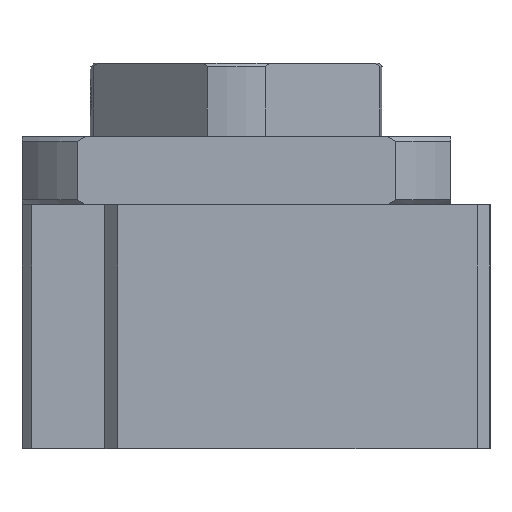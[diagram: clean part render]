
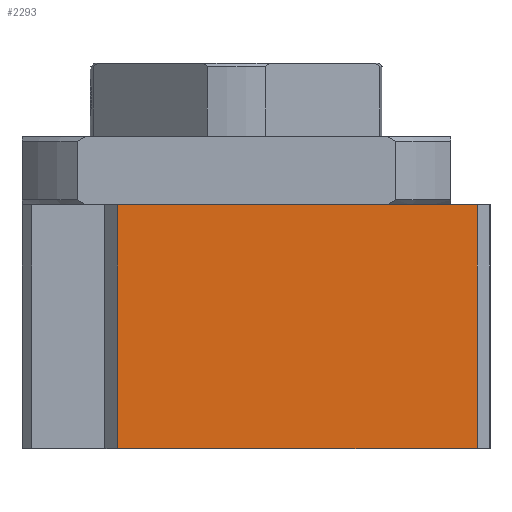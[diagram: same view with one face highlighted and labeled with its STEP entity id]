
A CAD part, left-side view. The second image highlights one B-rep face of the part: STEP entity #2293.
In plain terms, the highlighted planar face has unit normal (-1, 0, 0).
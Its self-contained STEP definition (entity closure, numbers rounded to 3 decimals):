
#117=LINE('',#3497,#289);
#130=LINE('',#3530,#302);
#131=LINE('',#3533,#303);
#132=LINE('',#3534,#304);
#289=VECTOR('',#2774,1000.);
#302=VECTOR('',#2797,1000.);
#303=VECTOR('',#2798,1000.);
#304=VECTOR('',#2799,1000.);
#453=PLANE('',#2493);
#591=ORIENTED_EDGE('',*,*,#1214,.F.);
#592=ORIENTED_EDGE('',*,*,#1215,.F.);
#593=ORIENTED_EDGE('',*,*,#1198,.T.);
#594=ORIENTED_EDGE('',*,*,#1216,.T.);
#1198=EDGE_CURVE('',#1509,#1510,#117,.T.);
#1214=EDGE_CURVE('',#1524,#1525,#130,.T.);
#1215=EDGE_CURVE('',#1509,#1524,#131,.T.);
#1216=EDGE_CURVE('',#1510,#1525,#132,.T.);
#1509=VERTEX_POINT('',#3498);
#1510=VERTEX_POINT('',#3499);
#1524=VERTEX_POINT('',#3531);
#1525=VERTEX_POINT('',#3532);
#1821=EDGE_LOOP('',(#591,#592,#593,#594));
#2043=FACE_BOUND('',#1821,.T.);
#2293=ADVANCED_FACE('',(#2043),#453,.T.);
#2493=AXIS2_PLACEMENT_3D('',#3529,#2795,#2796);
#2774=DIRECTION('',(0.,-1.,0.));
#2795=DIRECTION('',(-1.,0.,0.));
#2796=DIRECTION('',(0.,0.,1.));
#2797=DIRECTION('',(0.,-1.,0.));
#2798=DIRECTION('',(0.,0.,1.));
#2799=DIRECTION('',(0.,0.,1.));
#3497=CARTESIAN_POINT('',(-70.,24.36,-50.));
#3498=CARTESIAN_POINT('',(-70.,24.36,-50.));
#3499=CARTESIAN_POINT('',(-70.,-49.36,-50.));
#3529=CARTESIAN_POINT('',(-70.,24.36,-50.));
#3530=CARTESIAN_POINT('',(-70.,24.36,0.));
#3531=CARTESIAN_POINT('',(-70.,24.36,0.));
#3532=CARTESIAN_POINT('',(-70.,-49.36,0.));
#3533=CARTESIAN_POINT('',(-70.,24.36,-50.));
#3534=CARTESIAN_POINT('',(-70.,-49.36,-50.));
